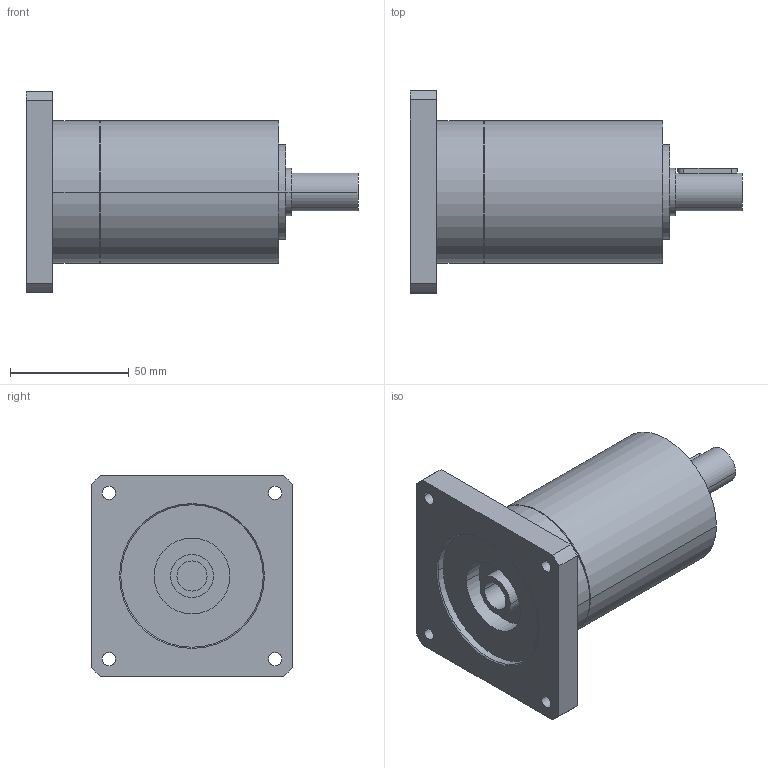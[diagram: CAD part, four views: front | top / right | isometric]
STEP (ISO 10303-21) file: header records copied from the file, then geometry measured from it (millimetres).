
FILE_DESCRIPTION(('CoCreate Modeling STEP Export'),'2;1');
FILE_NAME('GPR75_ig-9-12-16-20-24-30-36_16_B14_12.7_P33.stp','2014-08-25T16:02:05',(''),(''),'CoCreate Modeling STEP processor for AP214 (Solid Model)','CoCreate Modeling 16.00C 25-Feb-2009 (C) Parametric Technology GmbH','');
FILE_SCHEMA(('AUTOMOTIVE_DESIGN { 1 0 10303 214 1 1 1 1 }'));
Length unit declared in the file: millimetre
Products named in the file (2): GPR75_ig-9-12-16-20-24-30-36_16_B14_12.7_P33
Assembly tree (1 placements, depth 2):
  GPR75_ig-9-12-16-20-24-30-36_16_B14_12.7_P33
    GPR75_ig-9-12-16-20-24-30-36_16_B14_12.7_P33
Bounding box: 139.9 x 85 x 85 mm (x, y, z)
Volume: 339407.2 mm3; surface area: 42484.6 mm2
Topology: 1 solids, 1 shells, 72 faces, 184 edges, 126 vertices
Faces by surface type: cylinder 42, plane 22, cone 8
Entity records: 1939 total; most frequent: ORIENTED_EDGE 364, CARTESIAN_POINT 358, DIRECTION 268, EDGE_CURVE 182, VERTEX_POINT 126, AXIS2_PLACEMENT_3D 100, EDGE_LOOP 94, FACE_OUTER_BOUND 72
